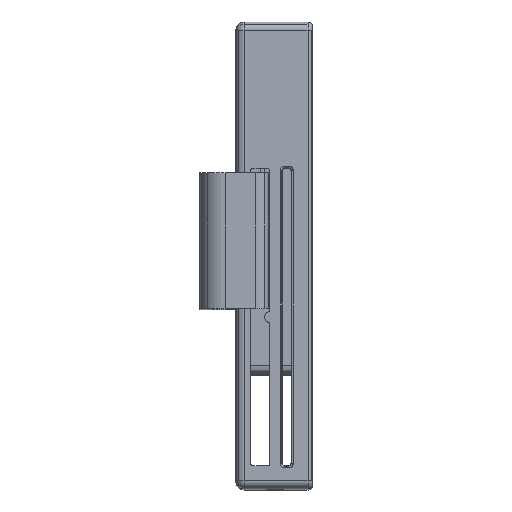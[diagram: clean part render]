
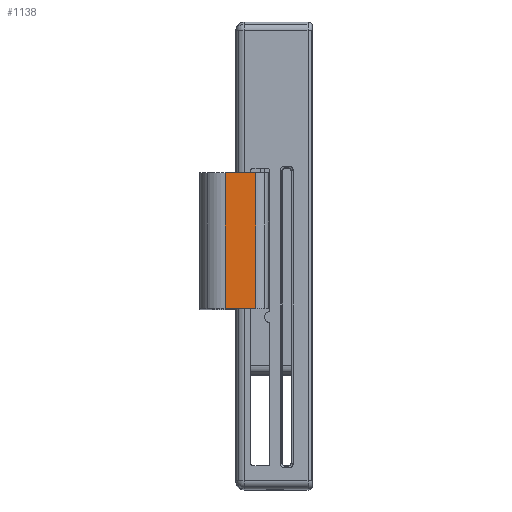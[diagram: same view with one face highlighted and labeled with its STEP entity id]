
A CAD part, top view. The second image highlights one B-rep face of the part: STEP entity #1138.
In plain terms, the highlighted planar face has unit normal (0, 0, 1).
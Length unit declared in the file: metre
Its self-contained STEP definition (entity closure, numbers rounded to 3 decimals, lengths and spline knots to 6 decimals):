
#1138=ADVANCED_FACE('47:11980',(#3599),#3600,.T.);
#3599=FACE_OUTER_BOUND('',#17812,.T.);
#3600=PLANE('',#17813);
#17812=EDGE_LOOP('',(#27215,#27216,#27217,#27218));
#17813=AXIS2_PLACEMENT_3D('',#27219,#27220,#27221);
#27215=ORIENTED_EDGE('',*,*,#32701,.F.);
#27216=ORIENTED_EDGE('',*,*,#32706,.T.);
#27217=ORIENTED_EDGE('',*,*,#32682,.F.);
#27218=ORIENTED_EDGE('',*,*,#32707,.F.);
#27219=CARTESIAN_POINT('',(0.0046,0.001375,0.121795));
#27220=DIRECTION('',(0.0,0.0,1.0));
#27221=DIRECTION('',(1.0,0.0,0.0));
#32682=EDGE_CURVE('47:12796',#37937,#37939,#37940,.T.);
#32701=EDGE_CURVE('47:12772',#37974,#37976,#37977,.T.);
#32706=EDGE_CURVE('47:12793',#37974,#37939,#37984,.F.);
#32707=EDGE_CURVE('47:12799',#37976,#37937,#37985,.T.);
#37937=VERTEX_POINT('',#47095);
#37939=VERTEX_POINT('',#47097);
#37940=LINE('',#47098,#47099);
#37974=VERTEX_POINT('',#47145);
#37976=VERTEX_POINT('',#47147);
#37977=LINE('',#47148,#47149);
#37984=LINE('',#47157,#47158);
#37985=LINE('',#47159,#47160);
#47095=CARTESIAN_POINT('',(0.0025,0.001375,0.121795));
#47097=CARTESIAN_POINT('',(0.0025,0.033375,0.121795));
#47098=CARTESIAN_POINT('',(0.0025,0.001375,0.121795));
#47099=VECTOR('',#54052,1.0);
#47145=CARTESIAN_POINT('',(0.0097,0.033375,0.121795));
#47147=CARTESIAN_POINT('',(0.0097,0.001375,0.121795));
#47148=CARTESIAN_POINT('',(0.0097,0.001375,0.121795));
#47149=VECTOR('',#54083,1.0);
#47157=CARTESIAN_POINT('',(0.007675,0.033375,0.121795));
#47158=VECTOR('',#54094,1.0);
#47159=CARTESIAN_POINT('',(0.0127,0.001375,0.121795));
#47160=VECTOR('',#54095,1.0);
#54052=DIRECTION('',(0.0,1.0,0.0));
#54083=DIRECTION('',(-0.0,-1.0,-0.0));
#54094=DIRECTION('',(1.0,0.0,0.0));
#54095=DIRECTION('',(-1.0,0.0,0.0));
